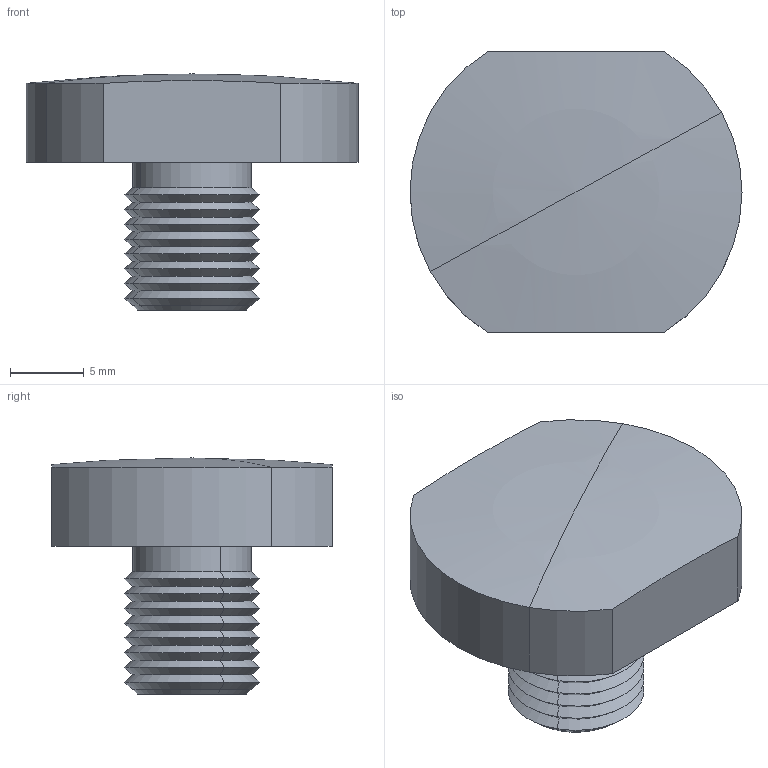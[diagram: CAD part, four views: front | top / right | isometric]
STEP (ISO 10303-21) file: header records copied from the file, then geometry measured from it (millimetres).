
FILE_DESCRIPTION(('CATIA V5 STEP Exchange'),'2;1');
FILE_NAME('W:\CATALOGO GENERAL 2018\FICHEROS CAD\025-ACCESORIOS\06-SUFRIDERAS\TPSC-M8L.stp','2017-11-28T07:29:35+00:00',('none'),('none'),'CATIA Version 5 Release 17 (IN-10)','CATIA V5 STEP AP203','none');
FILE_SCHEMA(('CONFIG_CONTROL_DESIGN'));
Length unit declared in the file: millimetre
Products named in the file (1): SUFRIDERA TPSC-M8L
Bounding box: 22.5 x 19 x 16 mm (x, y, z)
Volume: 2668.9 mm3; surface area: 1497.5 mm2
Topology: 1 solids, 1 shells, 48 faces, 100 edges, 53 vertices
Faces by surface type: cone 34, cylinder 6, plane 4, sphere 2, torus 2
Entity records: 1153 total; most frequent: CARTESIAN_POINT 213, ORIENTED_EDGE 196, DIRECTION 150, EDGE_CURVE 98, AXIS2_PLACEMENT_3D 80, VERTEX_POINT 53, CIRCLE 52, EDGE_LOOP 49
